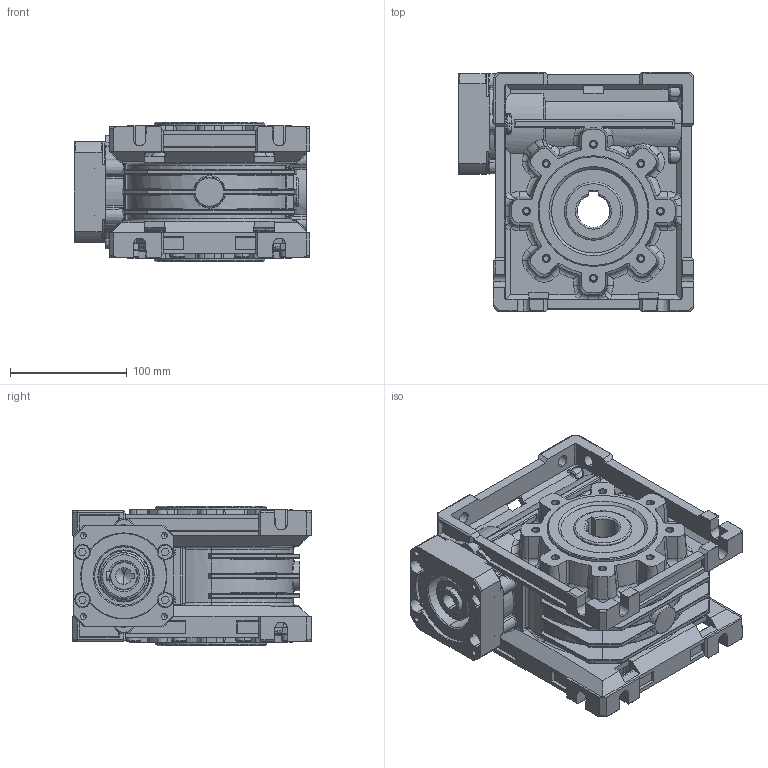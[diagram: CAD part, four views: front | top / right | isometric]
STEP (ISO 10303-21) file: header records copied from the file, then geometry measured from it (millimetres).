
FILE_DESCRIPTION (( 'STEP AP214' ), '1' );
FILE_NAME ('AF.00024552.STEP', '2022-11-18T10:03:56', ( '' ), ( '' ), 'SwSTEP 2.0', 'SolidWorks 2020', '' );
FILE_SCHEMA (( 'AUTOMOTIVE_DESIGN' ));
Length unit declared in the file: millimetre
Products named in the file (23): 6KYA8730; 6OSTC40687NH; 6OR3500N; W075015_SENZA RAGGI; 6SCTXM816ZC_Semplice; W0751505024; TCM075050U_BASE; AF.00024552; VITE TCEI-PG-UNI5931 M8X22_Semplice; 4FCM75IS86.431; 6OSTC50728NH; 4SLI14O24.23; W07502; 110OLIOVSF320; W0750721-D28; 4SLKI14O24S; 150NP27.37.20; W0752005028; 6BR6010; 6BR6206E; 6BR6008E; 075riportolavorato20-25-40-50-60-80-100_50; 6CII68
Assembly tree (33 placements, depth 4):
  AF.00024552
    4FCM75IS86.431
    VITE TCEI-PG-UNI5931 M8X22_Semplice  x4
    TCM075050U_BASE
      W075015_SENZA RAGGI
      W0752005028
        W0750721-D28
        075riportolavorato20-25-40-50-60-80-100_50
      6BR6010  x2
      W07502
      6SCTXM816ZC_Semplice  x8
      W0751505024
      6BR6206E
      6BR6008E
      6CII68
      6OSTC50728NH  x2
      6OSTC40687NH
      6OR3500N
      150NP27.37.20
    4SLKI14O24S
      4SLI14O24.23
      6KYA8730
  110OLIOVSF320
Bounding box: 202 x 205 x 120 mm (x, y, z)
Volume: 1940376.3 mm3; surface area: 635772.3 mm2
Topology: 30 solids, 45 shells, 3730 faces, 9202 edges, 5556 vertices
Faces by surface type: plane 895, cylinder 846, bspline 829, torus 575, cone 568, sphere 17
Entity records: 140340 total; most frequent: CARTESIAN_POINT 58961, ORIENTED_EDGE 17016, DIRECTION 14224, EDGE_CURVE 8508, AXIS2_PLACEMENT_3D 5838, VERTEX_POINT 5206, EDGE_LOOP 3574, ADVANCED_FACE 3418
